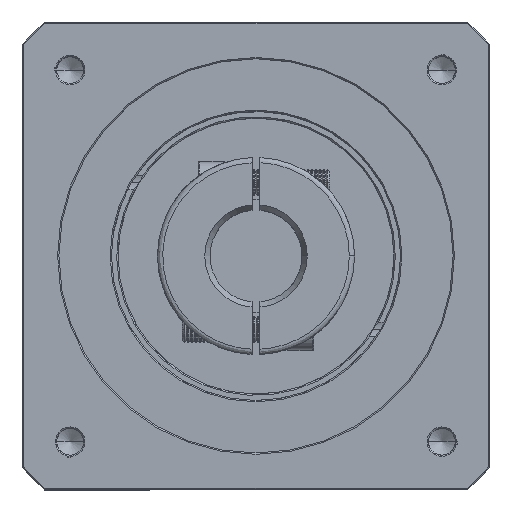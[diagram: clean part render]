
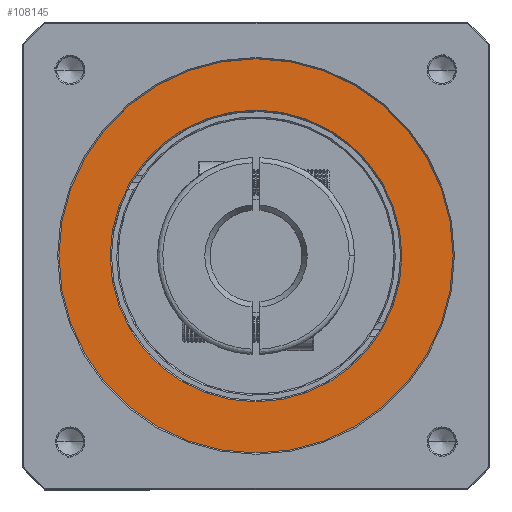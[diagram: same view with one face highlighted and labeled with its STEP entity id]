
A CAD part, top view. The second image highlights one B-rep face of the part: STEP entity #108145.
In plain terms, the highlighted planar face has unit normal (0, 0, 1).
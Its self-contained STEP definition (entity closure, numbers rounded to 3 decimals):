
#1424 = EDGE_CURVE ( 'NONE', #97064, #58191, #28186, .T. ) ;
#2472 = EDGE_LOOP ( 'NONE', ( #38011, #71638 ) ) ;
#12303 = ORIENTED_EDGE ( 'NONE', *, *, #1424, .T. ) ;
#12862 = DIRECTION ( 'NONE',  ( 1., 0., 0. ) ) ;
#14845 = FACE_BOUND ( 'NONE', #78018, .T. ) ;
#18638 = DIRECTION ( 'NONE',  ( 0., 0., 1. ) ) ;
#19083 = AXIS2_PLACEMENT_3D ( 'NONE', #24085, #63916, #12862 ) ;
#23809 = DIRECTION ( 'NONE',  ( 0., 0., -1. ) ) ;
#24085 = CARTESIAN_POINT ( 'NONE',  ( -90.401, 91.584, 33.108 ) ) ;
#24367 = CARTESIAN_POINT ( 'NONE',  ( -90.401, 91.584, 33.108 ) ) ;
#24439 = CIRCLE ( 'NONE', #123582, 55.5 ) ;
#26537 = ORIENTED_EDGE ( 'NONE', *, *, #32193, .T. ) ;
#28186 = CIRCLE ( 'NONE', #118549, 55.5 ) ;
#30285 = DIRECTION ( 'NONE',  ( 0., 0., 1. ) ) ;
#32193 = EDGE_CURVE ( 'NONE', #58191, #97064, #24439, .T. ) ;
#38011 = ORIENTED_EDGE ( 'NONE', *, *, #128493, .T. ) ;
#39295 = AXIS2_PLACEMENT_3D ( 'NONE', #61586, #30285, #101556 ) ;
#40267 = CARTESIAN_POINT ( 'NONE',  ( -15.401, 91.584, 33.108 ) ) ;
#42692 = CARTESIAN_POINT ( 'NONE',  ( -165.401, 91.584, 33.108 ) ) ;
#43488 = CARTESIAN_POINT ( 'NONE',  ( -145.901, 91.584, 33.108 ) ) ;
#44935 = FACE_OUTER_BOUND ( 'NONE', #2472, .T. ) ;
#44947 = DIRECTION ( 'NONE',  ( 1., 0., 0. ) ) ;
#44992 = CIRCLE ( 'NONE', #112454, 75. ) ;
#48770 = CIRCLE ( 'NONE', #19083, 75. ) ;
#58191 = VERTEX_POINT ( 'NONE', #111252 ) ;
#61161 = PLANE ( 'NONE',  #39295 ) ;
#61223 = VERTEX_POINT ( 'NONE', #40267 ) ;
#61586 = CARTESIAN_POINT ( 'NONE',  ( -90.401, 91.584, 33.108 ) ) ;
#63916 = DIRECTION ( 'NONE',  ( 0., 0., 1. ) ) ;
#71638 = ORIENTED_EDGE ( 'NONE', *, *, #125959, .T. ) ;
#74878 = CARTESIAN_POINT ( 'NONE',  ( -90.401, 91.584, 33.108 ) ) ;
#74938 = VERTEX_POINT ( 'NONE', #42692 ) ;
#78018 = EDGE_LOOP ( 'NONE', ( #26537, #12303 ) ) ;
#80005 = CARTESIAN_POINT ( 'NONE',  ( -90.401, 91.584, 33.108 ) ) ;
#95539 = DIRECTION ( 'NONE',  ( 1., 0., 0. ) ) ;
#97064 = VERTEX_POINT ( 'NONE', #43488 ) ;
#101148 = DIRECTION ( 'NONE',  ( 1., 0., 0. ) ) ;
#101556 = DIRECTION ( 'NONE',  ( 1., 0., 0. ) ) ;
#106399 = DIRECTION ( 'NONE',  ( 0., 0., -1. ) ) ;
#108145 = ADVANCED_FACE ( 'NONE', ( #14845, #44935 ), #61161, .T. ) ;
#111252 = CARTESIAN_POINT ( 'NONE',  ( -34.901, 91.584, 33.108 ) ) ;
#112454 = AXIS2_PLACEMENT_3D ( 'NONE', #80005, #18638, #101148 ) ;
#118549 = AXIS2_PLACEMENT_3D ( 'NONE', #24367, #106399, #44947 ) ;
#123582 = AXIS2_PLACEMENT_3D ( 'NONE', #74878, #23809, #95539 ) ;
#125959 = EDGE_CURVE ( 'NONE', #74938, #61223, #44992, .T. ) ;
#128493 = EDGE_CURVE ( 'NONE', #61223, #74938, #48770, .T. ) ;
